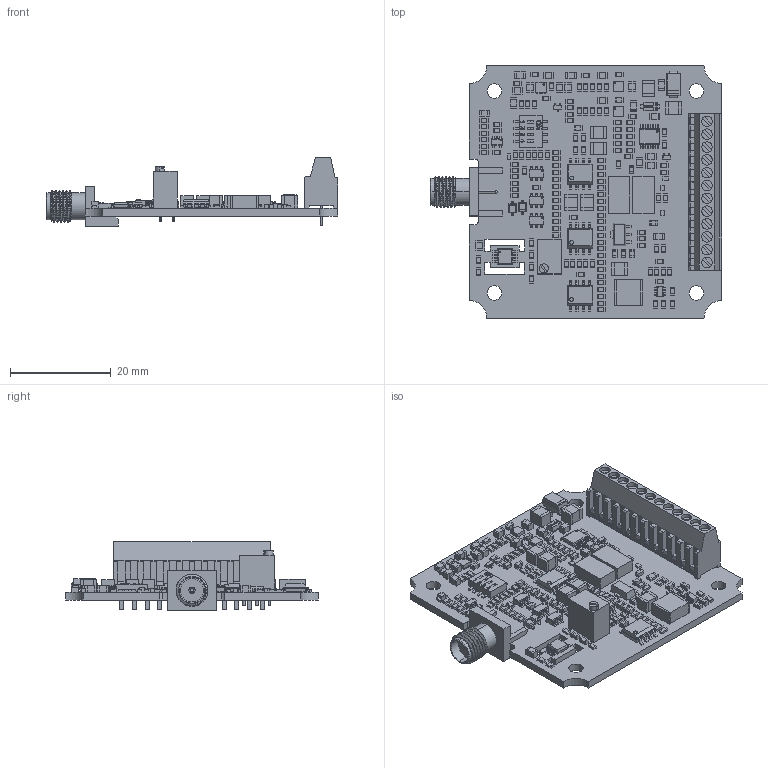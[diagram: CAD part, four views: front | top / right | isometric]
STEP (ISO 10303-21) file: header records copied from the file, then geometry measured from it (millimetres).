
FILE_DESCRIPTION(('Open CASCADE Model'),'2;1');
FILE_NAME('Open CASCADE Shape Model','2021-09-13T14:29:47',('Author'),( 'Open CASCADE'),'Open CASCADE STEP processor 6.8','Open CASCADE 6.8' ,'Unknown');
FILE_SCHEMA(('AUTOMOTIVE_DESIGN { 1 0 10303 214 1 1 1 1 }'));
Length unit declared in the file: millimetre
Products named in the file (375): DRV300
Assembly tree (900 placements, depth 4):
  DRV300
    DRV300
      DRV300
    DRV300
      DRV300
      DRV300
      DRV300
    DRV300
      DRV300
      DRV300
      DRV300
    DRV300
      DRV300
      DRV300
      DRV300
    DRV300
      DRV300
      DRV300
      DRV300
    DRV300
      DRV300
      DRV300
      DRV300
    DRV300
      DRV300
      DRV300
      DRV300
    DRV300
      DRV300
      DRV300
      DRV300
    DRV300
      DRV300
      DRV300
      DRV300
    DRV300
      DRV300
    DRV300
      DRV300
    DRV300
      DRV300
      DRV300
      DRV300
    DRV300
      DRV300
      DRV300
      DRV300
    DRV300
      DRV300
      DRV300
      DRV300
    DRV300
      DRV300
      DRV300
      DRV300
    DRV300
      DRV300
      DRV300
      DRV300
    DRV300
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Bounding box: 57.7 x 50 x 13.57 mm (x, y, z)
Volume: 6463.7 mm3; surface area: 12085.3 mm2
Topology: 701 solids, 792 shells, 5741 faces, 12976 edges, 8756 vertices
Faces by surface type: plane 5114, cylinder 529, extrusion 71, cone 18, sphere 5, bspline 4
Full cylindrical faces by diameter (mm): 0.207 x2, 0.25 x7, 0.35 x2, 0.65 x2, 0.75 x6, 0.9 x15, 2.1 x24, 2.85 x4
Entity records: 90442 total; most frequent: CARTESIAN_POINT 15606, DIRECTION 11578, ORIENTED_EDGE 10468, EDGE_CURVE 5465, VECTOR 4124, LINE 4053, VERTEX_POINT 3768, AXIS2_PLACEMENT_3D 3727
